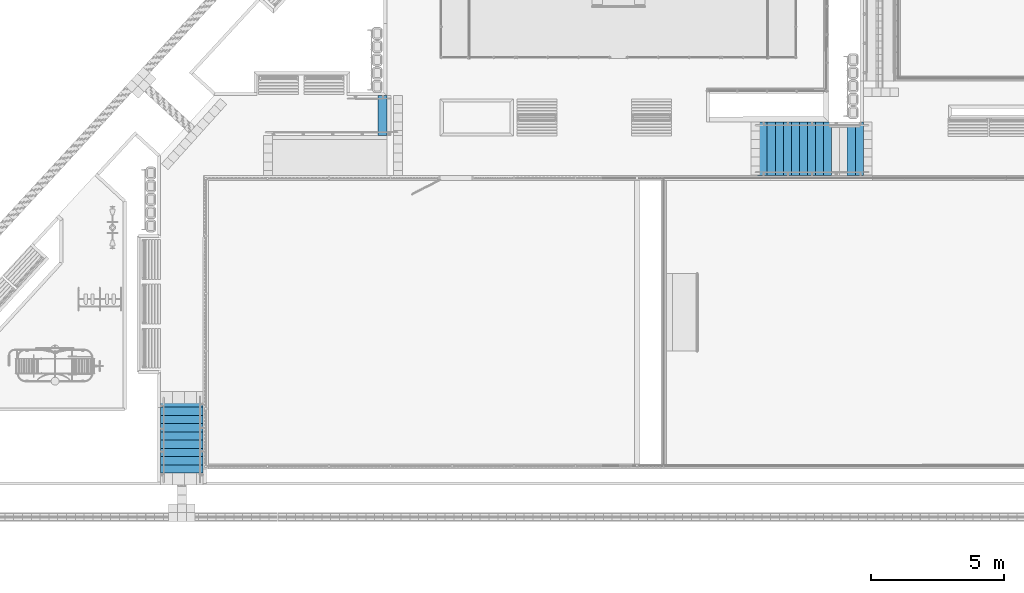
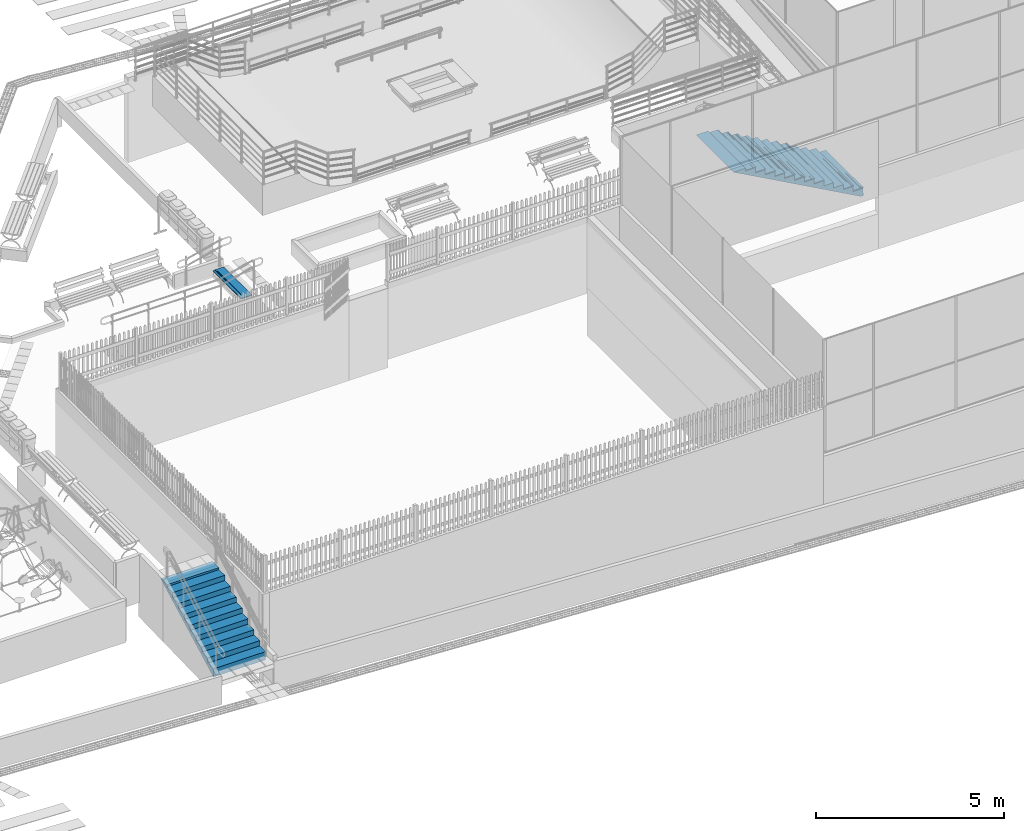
# One storey, part 22 of 237: 13 members, 3 elements without a shape of their own.
"""IFC2X3 building model written with IfcOpenShell, lengths in millimetres."""

from ifc_helpers import new_model, entity, si_unit, converted_unit, derived_unit, money_unit, direction, frame, origin_with_axes, place, context, subcontext, project, spatial, faceted_brep, material, type_object, element, aggregate, save


model = new_model("IFC2X3")

# Units and contexts
model_context = context("Model", 3, precision=0.01, world=origin_with_axes(), true_north=direction((0.0, 1.0)))
body_context = subcontext(model_context, "Body", "Model", "MODEL_VIEW")
ifc_project = project(units=[si_unit("LENGTHUNIT", "METRE", prefix="MILLI"), si_unit("AREAUNIT", "SQUARE_METRE"), si_unit("VOLUMEUNIT", "CUBIC_METRE"), converted_unit("PLANEANGLEUNIT", "DEGREE", entity("IfcPlaneAngleMeasure", 0.0174532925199), si_unit("PLANEANGLEUNIT", "RADIAN"), dimensions=[0, 0, 0, 0, 0, 0, 0]), money_unit("USD"), converted_unit("TIMEUNIT", "Year", entity("IfcTimeMeasure", 31556926.0), si_unit("TIMEUNIT", "SECOND"), dimensions=[0, 0, 1, 0, 0, 0, 0]), si_unit("MASSUNIT", "GRAM", prefix="KILO"), si_unit("THERMODYNAMICTEMPERATUREUNIT", "DEGREE_CELSIUS"), si_unit("LUMINOUSINTENSITYUNIT", "LUMEN"), si_unit("ENERGYUNIT", "JOULE", prefix="MEGA"), derived_unit("THERMALCONDUCTANCEUNIT", [(si_unit("POWERUNIT", "WATT"), 1), (si_unit("LENGTHUNIT", "METRE"), -1), (si_unit("THERMODYNAMICTEMPERATUREUNIT", "KELVIN"), -1)]), derived_unit("SPECIFICHEATCAPACITYUNIT", [(si_unit("ENERGYUNIT", "JOULE"), 1), (si_unit("MASSUNIT", "GRAM", prefix="KILO"), -1), (si_unit("THERMODYNAMICTEMPERATUREUNIT", "KELVIN"), -1)]), derived_unit("MASSDENSITYUNIT", [(si_unit("MASSUNIT", "GRAM", prefix="KILO"), 1), (si_unit("VOLUMEUNIT", "CUBIC_METRE"), -1)])], contexts=[model_context])

# Site, building, storey
site_placement = place(None, origin_with_axes())
site = spatial("IfcSite", under=ifc_project, at=site_placement, Name="Local", CompositionType="ELEMENT")
building_placement = place(site_placement, origin_with_axes())
building = spatial("IfcBuilding", under=site, at=building_placement, Name="Construção", CompositionType="ELEMENT")
storey_placement = place(building_placement, origin_with_axes())
storey = spatial("IfcBuildingStorey", under=building, at=storey_placement, Name="Pavimento Térreo", CompositionType="ELEMENT", Elevation=0.0)

# Stair, member
stair_1_placement = place(storey_placement, frame((48727.4440926, 25154.9440169, -1600.0), z_axis=(0.0, 0.0, 1.0), x_axis=(-1.0, 0.0, 0.0)))
stair_1 = element("IfcStair", 1, at=stair_1_placement, inside=storey, Name="Escada - 004", ShapeType="NOTDEFINED")
ifc_material_1 = material(Name="Concreto Armado - Pré-fabricado")
member_type = type_object("IfcMemberType", Name="IfcMember", PredefinedType="NOTDEFINED")
member_1_placement = place(stair_1_placement, frame((0.0, -750.0, 130.0), z_axis=(0.0, 0.0, 1.0), x_axis=(0.0, 1.0, 0.0)))
member_1 = element("IfcMember", 2, at=member_1_placement, type_object=member_type, material=ifc_material_1, Name="Piso Esc. - 034", context=body_context, shape_type="Brep", body=[
    faceted_brep([(-750.0, 95.0, 0.0), (750.0, 95.0, 0.0), (750.0, 320.0, 0.0), (750.0, 335.0, 0.0), (-750.0, 335.0, 0.0), (-750.0, 320.0, 0.0), (750.0, 95.0, -5.0), (-750.0, 95.0, -5.0), (750.0, 80.0, -5.0), (750.0, 80.0, 0.0), (750.0, 62.5, 0.0), (750.0, 62.5, -5.0), (750.0, 47.5, -5.0), (750.0, 47.5, 0.0), (750.0, 30.0, 0.0), (750.0, 30.0, -5.0), (750.0, 15.0, -5.0), (750.0, 15.0, 0.0), (750.0, 0.0, 0.0), (750.0, 0.0, -25.0), (750.0, 320.0, -25.0), (750.0, 335.0, -25.0), (-750.0, 335.0, -25.0), (-750.0, 320.0, -25.0), (-750.0, 0.0, -25.0), (-750.0, 0.0, 0.0), (-750.0, 15.0, 0.0), (-750.0, 15.0, -5.0), (-750.0, 30.0, -5.0), (-750.0, 30.0, 0.0), (-750.0, 47.5, 0.0), (-750.0, 47.5, -5.0), (-750.0, 62.5, -5.0), (-750.0, 62.5, 0.0), (-750.0, 80.0, 0.0), (-750.0, 80.0, -5.0)], [[[0, 1, 2, 3, 4, 5]], [[6, 1, 0, 7]], [[8, 9, 10, 11, 12, 13, 14, 15, 16, 17, 18, 19, 20, 2, 1, 6]], [[2, 20, 21, 3]], [[3, 21, 22, 4]], [[4, 22, 23, 5]], [[7, 0, 5, 23, 24, 25, 26, 27, 28, 29, 30, 31, 32, 33, 34, 35]], [[8, 6, 7, 35]], [[34, 9, 8, 35]], [[9, 34, 33, 10]], [[10, 33, 32, 11]], [[11, 32, 31, 12]], [[13, 12, 31, 30]], [[30, 29, 14, 13]], [[29, 28, 15, 14]], [[28, 27, 16, 15]], [[16, 27, 26, 17]], [[25, 18, 17, 26]], [[25, 24, 19, 18]], [[21, 20, 19, 24, 23, 22]]]),
])
aggregate(stair_1, [member_1])

# Stair, members
stair_2_placement = place(storey_placement, frame((66962.5028921, 25657.7253191, -3507.10819655), z_axis=(0.0, 0.0, 1.0), x_axis=(1.0, 0.0, 0.0)))
stair_2 = element("IfcStair", 3, at=stair_2_placement, inside=storey, Name="Escada - 009", ShapeType="NOTDEFINED")
ifc_material_2 = material(Name="Concreto - Estrutural")
member_2_placement = place(stair_2_placement, origin_with_axes())
member_2 = element("IfcMember", 4, at=member_2_placement, type_object=member_type, material=ifc_material_2, Name="Lance - 011", context=body_context, shape_type="Brep", body=[
    faceted_brep([(-3525.0, -2000.0, 1795.81103818), (-3525.0, 0.0, 1795.81103818), (-3450.0, 0.0, 1754.46488434), (-3450.0, -2000.0, 1754.46488434), (-3600.0, 0.0, 1837.15719203), (-3600.0, -2000.0, 1837.15719203), (-3986.08695399, -2000.0, 2050.0), (-3986.08695399, 0.0, 2050.0), (-3600.0, 0.0, 1959.61538462), (-3315.0, 0.0, 1959.61538462), (-3315.0, 0.0, 1794.23076923), (-3015.0, 0.0, 1794.23076923), (-3015.0, 0.0, 1628.84615385), (-2715.0, 0.0, 1628.84615385), (-2715.0, 0.0, 1463.46153846), (-2415.0, 0.0, 1463.46153846), (-2415.0, 0.0, 1298.07692308), (-2115.0, 0.0, 1298.07692308), (-2115.0, 0.0, 1132.69230769), (-1815.0, 0.0, 1132.69230769), (-1815.0, 0.0, 967.307692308), (-1515.0, 0.0, 967.307692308), (-1515.0, 0.0, 801.923076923), (-1215.0, 0.0, 801.923076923), (-1215.0, 0.0, 636.538461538), (-915.0, 0.0, 636.538461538), (-915.0, 0.0, 471.153846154), (-615.0, 0.0, 471.153846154), (-615.0, 0.0, 305.769230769), (-315.0, 0.0, 305.769230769), (-315.0, 0.0, 140.384615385), (-15.0, 0.0, 140.384615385), (-15.0, 0.0, -25.0), (0.0, 0.0, -25.0), (0.0, 0.0, -100.0), (-86.0869539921, 0.0, -100.0), (-100.0, 0.0, -92.3299874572), (-200.0, 0.0, -37.201782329), (-300.0, 0.0, 17.9264227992), (-375.0, 0.0, 59.2725766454), (-450.0, 0.0, 100.618730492), (-525.0, 0.0, 141.964884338), (-600.0, 0.0, 183.311038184), (-700.0, 0.0, 238.439243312), (-800.0, 0.0, 293.56744844), (-900.0, 0.0, 348.695653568), (-975.0, 0.0, 390.041807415), (-1050.0, 0.0, 431.387961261), (-1125.0, 0.0, 472.734115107), (-1200.0, 0.0, 514.080268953), (-1300.0, 0.0, 569.208474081), (-1400.0, 0.0, 624.336679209), (-1500.0, 0.0, 679.464884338), (-1600.0, 0.0, 734.593089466), (-1700.0, 0.0, 789.721294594), (-1800.0, 0.0, 844.849499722), (-1875.0, 0.0, 886.195653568), (-1950.0, 0.0, 927.541807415), (-2025.0, 0.0, 968.887961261), (-2100.0, 0.0, 1010.23411511), (-2200.0, 0.0, 1065.36232024), (-2300.0, 0.0, 1120.49052536), (-2400.0, 0.0, 1175.61873049), (-2500.0, 0.0, 1230.74693562), (-2600.0, 0.0, 1285.87514075), (-2700.0, 0.0, 1341.00334588), (-2775.0, 0.0, 1382.34949972), (-2850.0, 0.0, 1423.69565357), (-2925.0, 0.0, 1465.04180741), (-3000.0, 0.0, 1506.38796126), (-3100.0, 0.0, 1561.51616639), (-3200.0, 0.0, 1616.64437152), (-3300.0, 0.0, 1671.77257665), (-3375.0, 0.0, 1713.11873049), (-3615.0, 0.0, 2050.0), (-3615.0, 0.0, 1959.61538462), (-3375.0, -2000.0, 1713.11873049), (-3300.0, -2000.0, 1671.77257665), (-3200.0, -2000.0, 1616.64437152), (-3100.0, -2000.0, 1561.51616639), (-3000.0, -2000.0, 1506.38796126), (-2925.0, -2000.0, 1465.04180741), (-2850.0, -2000.0, 1423.69565357), (-2775.0, -2000.0, 1382.34949972), (-2700.0, -2000.0, 1341.00334588), (-2600.0, -2000.0, 1285.87514075), (-2500.0, -2000.0, 1230.74693562), (-2400.0, -2000.0, 1175.61873049), (-2300.0, -2000.0, 1120.49052536), (-2200.0, -2000.0, 1065.36232024), (-2100.0, -2000.0, 1010.23411511), (-2025.0, -2000.0, 968.887961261), (-1950.0, -2000.0, 927.541807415), (-1875.0, -2000.0, 886.195653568), (-1800.0, -2000.0, 844.849499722), (-1700.0, -2000.0, 789.721294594), (-1600.0, -2000.0, 734.593089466), (-1500.0, -2000.0, 679.464884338), (-1400.0, -2000.0, 624.336679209), (-1300.0, -2000.0, 569.208474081), (-1200.0, -2000.0, 514.080268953), (-1125.0, -2000.0, 472.734115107), (-1050.0, -2000.0, 431.387961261), (-975.0, -2000.0, 390.041807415), (-900.0, -2000.0, 348.695653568), (-800.0, -2000.0, 293.56744844), (-700.0, -2000.0, 238.439243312), (-600.0, -2000.0, 183.311038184), (-525.0, -2000.0, 141.964884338), (-450.0, -2000.0, 100.618730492), (-375.0, -2000.0, 59.2725766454), (-300.0, -2000.0, 17.9264227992), (-200.0, -2000.0, -37.201782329), (-100.0, -2000.0, -92.3299874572), (-86.0869539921, -2000.0, -100.0), (0.0, -2000.0, -100.0), (0.0, -2000.0, -25.0), (-15.0, -2000.0, -25.0), (-15.0, -2000.0, 140.384615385), (-315.0, -2000.0, 140.384615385), (-315.0, -2000.0, 305.769230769), (-615.0, -2000.0, 305.769230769), (-615.0, -2000.0, 471.153846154), (-915.0, -2000.0, 471.153846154), (-915.0, -2000.0, 636.538461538), (-1215.0, -2000.0, 636.538461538), (-1215.0, -2000.0, 801.923076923), (-1515.0, -2000.0, 801.923076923), (-1515.0, -2000.0, 967.307692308), (-1815.0, -2000.0, 967.307692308), (-1815.0, -2000.0, 1132.69230769), (-2115.0, -2000.0, 1132.69230769), (-2115.0, -2000.0, 1298.07692308), (-2415.0, -2000.0, 1298.07692308), (-2415.0, -2000.0, 1463.46153846), (-2715.0, -2000.0, 1463.46153846), (-2715.0, -2000.0, 1628.84615385), (-3015.0, -2000.0, 1628.84615385), (-3015.0, -2000.0, 1794.23076923), (-3315.0, -2000.0, 1794.23076923), (-3315.0, -2000.0, 1959.61538462), (-3600.0, -2000.0, 1959.61538462), (-3615.0, -2000.0, 1959.61538462), (-3615.0, -2000.0, 2050.0)], [[[0, 1, 2, 3]], [[4, 1, 0, 5, 6, 7]], [[8, 9, 10, 11, 12, 13, 14, 15, 16, 17, 18, 19, 20, 21, 22, 23, 24, 25, 26, 27, 28, 29, 30, 31, 32, 33, 34, 35, 36, 37, 38, 39, 40, 41, 42, 43, 44, 45, 46, 47, 48, 49, 50, 51, 52, 53, 54, 55, 56, 57, 58, 59, 60, 61, 62, 63, 64, 65, 66, 67, 68, 69, 70, 71, 72, 73, 2, 1, 4, 7, 74, 75]], [[3, 2, 73, 76]], [[5, 0, 3, 76, 77, 78, 79, 80, 81, 82, 83, 84, 85, 86, 87, 88, 89, 90, 91, 92, 93, 94, 95, 96, 97, 98, 99, 100, 101, 102, 103, 104, 105, 106, 107, 108, 109, 110, 111, 112, 113, 114, 115, 116, 117, 118, 119, 120, 121, 122, 123, 124, 125, 126, 127, 128, 129, 130, 131, 132, 133, 134, 135, 136, 137, 138, 139, 140, 141, 142, 143, 6]], [[6, 143, 74, 7]], [[141, 140, 9, 8, 75, 142]], [[140, 139, 10, 9]], [[139, 138, 11, 10]], [[138, 137, 12, 11]], [[137, 136, 13, 12]], [[136, 135, 14, 13]], [[135, 134, 15, 14]], [[134, 133, 16, 15]], [[133, 132, 17, 16]], [[132, 131, 18, 17]], [[131, 130, 19, 18]], [[130, 129, 20, 19]], [[129, 128, 21, 20]], [[128, 127, 22, 21]], [[127, 126, 23, 22]], [[126, 125, 24, 23]], [[125, 124, 25, 24]], [[124, 123, 26, 25]], [[123, 122, 27, 26]], [[122, 121, 28, 27]], [[121, 120, 29, 28]], [[120, 119, 30, 29]], [[119, 118, 31, 30]], [[118, 117, 32, 31]], [[32, 117, 116, 33]], [[115, 34, 33, 116]], [[35, 34, 115, 114]], [[35, 114, 113, 36]], [[112, 37, 36, 113]], [[111, 38, 37, 112]], [[110, 39, 38, 111]], [[109, 40, 39, 110]], [[108, 41, 40, 109]], [[107, 42, 41, 108]], [[106, 43, 42, 107]], [[105, 44, 43, 106]], [[104, 45, 44, 105]], [[103, 46, 45, 104]], [[102, 47, 46, 103]], [[101, 48, 47, 102]], [[100, 49, 48, 101]], [[99, 50, 49, 100]], [[98, 51, 50, 99]], [[97, 52, 51, 98]], [[96, 53, 52, 97]], [[95, 54, 53, 96]], [[94, 55, 54, 95]], [[93, 56, 55, 94]], [[92, 57, 56, 93]], [[91, 58, 57, 92]], [[90, 59, 58, 91]], [[89, 60, 59, 90]], [[88, 61, 60, 89]], [[87, 62, 61, 88]], [[86, 63, 62, 87]], [[85, 64, 63, 86]], [[84, 65, 64, 85]], [[83, 66, 65, 84]], [[82, 67, 66, 83]], [[81, 68, 67, 82]], [[80, 69, 68, 81]], [[79, 70, 69, 80]], [[78, 71, 70, 79]], [[77, 72, 71, 78]], [[76, 73, 72, 77]], [[142, 75, 74, 143]]]),
])
member_3_placement = place(stair_2_placement, frame((0.0, -1000.0, 165.384615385), z_axis=(0.0, 0.0, 1.0), x_axis=(0.0, 1.0, 0.0)))
member_3 = element("IfcMember", 5, at=member_3_placement, type_object=member_type, material=ifc_material_1, Name="Piso Esc. - 066", context=body_context, shape_type="Brep", body=[
    faceted_brep([(-1000.0, 95.0, 0.0), (1000.0, 95.0, 0.0), (1000.0, 315.0, 0.0), (-1000.0, 315.0, 0.0), (1000.0, 95.0, -5.0), (-1000.0, 95.0, -5.0), (1000.0, 80.0, -5.0), (1000.0, 80.0, 0.0), (1000.0, 62.5, 0.0), (1000.0, 62.5, -5.0), (1000.0, 47.5, -5.0), (1000.0, 47.5, 0.0), (1000.0, 30.0, 0.0), (1000.0, 30.0, -5.0), (1000.0, 15.0, -5.0), (1000.0, 15.0, 0.0), (1000.0, 0.0, 0.0), (1000.0, 0.0, -25.0), (1000.0, 315.0, -25.0), (-1000.0, 315.0, -25.0), (-1000.0, 0.0, -25.0), (-1000.0, 0.0, 0.0), (-1000.0, 15.0, 0.0), (-1000.0, 15.0, -5.0), (-1000.0, 30.0, -5.0), (-1000.0, 30.0, 0.0), (-1000.0, 47.5, 0.0), (-1000.0, 47.5, -5.0), (-1000.0, 62.5, -5.0), (-1000.0, 62.5, 0.0), (-1000.0, 80.0, 0.0), (-1000.0, 80.0, -5.0)], [[[0, 1, 2, 3]], [[4, 1, 0, 5]], [[6, 7, 8, 9, 10, 11, 12, 13, 14, 15, 16, 17, 18, 2, 1, 4]], [[2, 18, 19, 3]], [[5, 0, 3, 19, 20, 21, 22, 23, 24, 25, 26, 27, 28, 29, 30, 31]], [[6, 4, 5, 31]], [[30, 7, 6, 31]], [[7, 30, 29, 8]], [[8, 29, 28, 9]], [[9, 28, 27, 10]], [[11, 10, 27, 26]], [[26, 25, 12, 11]], [[25, 24, 13, 12]], [[24, 23, 14, 13]], [[14, 23, 22, 15]], [[21, 16, 15, 22]], [[21, 20, 17, 16]], [[17, 20, 19, 18]]]),
])
member_4_placement = place(stair_2_placement, frame((-300.0, -1000.0, 330.769230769), z_axis=(0.0, 0.0, 1.0), x_axis=(0.0, 1.0, 0.0)))
member_4 = element("IfcMember", 6, at=member_4_placement, type_object=member_type, material=ifc_material_1, Name="Piso Esc. - 067", context=body_context, shape_type="Brep", body=[
    faceted_brep([(-1000.0, 95.0, 0.0), (1000.0, 95.0, 0.0), (1000.0, 315.0, 0.0), (-1000.0, 315.0, 0.0), (1000.0, 95.0, -5.0), (-1000.0, 95.0, -5.0), (1000.0, 80.0, -5.0), (1000.0, 80.0, 0.0), (1000.0, 62.5, 0.0), (1000.0, 62.5, -5.0), (1000.0, 47.5, -5.0), (1000.0, 47.5, 0.0), (1000.0, 30.0, 0.0), (1000.0, 30.0, -5.0), (1000.0, 15.0, -5.0), (1000.0, 15.0, 0.0), (1000.0, 0.0, 0.0), (1000.0, 0.0, -25.0), (1000.0, 315.0, -25.0), (-1000.0, 315.0, -25.0), (-1000.0, 0.0, -25.0), (-1000.0, 0.0, 0.0), (-1000.0, 15.0, 0.0), (-1000.0, 15.0, -5.0), (-1000.0, 30.0, -5.0), (-1000.0, 30.0, 0.0), (-1000.0, 47.5, 0.0), (-1000.0, 47.5, -5.0), (-1000.0, 62.5, -5.0), (-1000.0, 62.5, 0.0), (-1000.0, 80.0, 0.0), (-1000.0, 80.0, -5.0)], [[[0, 1, 2, 3]], [[4, 1, 0, 5]], [[6, 7, 8, 9, 10, 11, 12, 13, 14, 15, 16, 17, 18, 2, 1, 4]], [[2, 18, 19, 3]], [[5, 0, 3, 19, 20, 21, 22, 23, 24, 25, 26, 27, 28, 29, 30, 31]], [[6, 4, 5, 31]], [[30, 7, 6, 31]], [[7, 30, 29, 8]], [[8, 29, 28, 9]], [[9, 28, 27, 10]], [[11, 10, 27, 26]], [[26, 25, 12, 11]], [[25, 24, 13, 12]], [[24, 23, 14, 13]], [[14, 23, 22, 15]], [[21, 16, 15, 22]], [[21, 20, 17, 16]], [[17, 20, 19, 18]]]),
])
member_5_placement = place(stair_2_placement, frame((-1200.0, -1000.0, 826.923076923), z_axis=(0.0, 0.0, 1.0), x_axis=(0.0, 1.0, 0.0)))
member_5 = element("IfcMember", 7, at=member_5_placement, type_object=member_type, material=ifc_material_1, Name="Piso Esc. - 070", context=body_context, shape_type="Brep", body=[
    faceted_brep([(-1000.0, 95.0, 0.0), (1000.0, 95.0, 0.0), (1000.0, 315.0, 0.0), (-1000.0, 315.0, 0.0), (1000.0, 95.0, -5.0), (-1000.0, 95.0, -5.0), (1000.0, 80.0, -5.0), (1000.0, 80.0, 0.0), (1000.0, 62.5, 0.0), (1000.0, 62.5, -5.0), (1000.0, 47.5, -5.0), (1000.0, 47.5, 0.0), (1000.0, 30.0, 0.0), (1000.0, 30.0, -5.0), (1000.0, 15.0, -5.0), (1000.0, 15.0, 0.0), (1000.0, 0.0, 0.0), (1000.0, 0.0, -25.0), (1000.0, 315.0, -25.0), (-1000.0, 315.0, -25.0), (-1000.0, 0.0, -25.0), (-1000.0, 0.0, 0.0), (-1000.0, 15.0, 0.0), (-1000.0, 15.0, -5.0), (-1000.0, 30.0, -5.0), (-1000.0, 30.0, 0.0), (-1000.0, 47.5, 0.0), (-1000.0, 47.5, -5.0), (-1000.0, 62.5, -5.0), (-1000.0, 62.5, 0.0), (-1000.0, 80.0, 0.0), (-1000.0, 80.0, -5.0)], [[[0, 1, 2, 3]], [[4, 1, 0, 5]], [[6, 7, 8, 9, 10, 11, 12, 13, 14, 15, 16, 17, 18, 2, 1, 4]], [[2, 18, 19, 3]], [[5, 0, 3, 19, 20, 21, 22, 23, 24, 25, 26, 27, 28, 29, 30, 31]], [[6, 4, 5, 31]], [[30, 7, 6, 31]], [[7, 30, 29, 8]], [[8, 29, 28, 9]], [[9, 28, 27, 10]], [[11, 10, 27, 26]], [[26, 25, 12, 11]], [[25, 24, 13, 12]], [[24, 23, 14, 13]], [[14, 23, 22, 15]], [[21, 16, 15, 22]], [[21, 20, 17, 16]], [[17, 20, 19, 18]]]),
])
member_6_placement = place(stair_2_placement, frame((-1500.0, -1000.0, 992.307692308), z_axis=(0.0, 0.0, 1.0), x_axis=(0.0, 1.0, 0.0)))
member_6 = element("IfcMember", 8, at=member_6_placement, type_object=member_type, material=ifc_material_1, Name="Piso Esc. - 071", context=body_context, shape_type="Brep", body=[
    faceted_brep([(-1000.0, 95.0, 0.0), (1000.0, 95.0, 0.0), (1000.0, 315.0, 0.0), (-1000.0, 315.0, 0.0), (1000.0, 95.0, -5.0), (-1000.0, 95.0, -5.0), (1000.0, 80.0, -5.0), (1000.0, 80.0, 0.0), (1000.0, 62.5, 0.0), (1000.0, 62.5, -5.0), (1000.0, 47.5, -5.0), (1000.0, 47.5, 0.0), (1000.0, 30.0, 0.0), (1000.0, 30.0, -5.0), (1000.0, 15.0, -5.0), (1000.0, 15.0, 0.0), (1000.0, 0.0, 0.0), (1000.0, 0.0, -25.0), (1000.0, 315.0, -25.0), (-1000.0, 315.0, -25.0), (-1000.0, 0.0, -25.0), (-1000.0, 0.0, 0.0), (-1000.0, 15.0, 0.0), (-1000.0, 15.0, -5.0), (-1000.0, 30.0, -5.0), (-1000.0, 30.0, 0.0), (-1000.0, 47.5, 0.0), (-1000.0, 47.5, -5.0), (-1000.0, 62.5, -5.0), (-1000.0, 62.5, 0.0), (-1000.0, 80.0, 0.0), (-1000.0, 80.0, -5.0)], [[[0, 1, 2, 3]], [[4, 1, 0, 5]], [[6, 7, 8, 9, 10, 11, 12, 13, 14, 15, 16, 17, 18, 2, 1, 4]], [[2, 18, 19, 3]], [[5, 0, 3, 19, 20, 21, 22, 23, 24, 25, 26, 27, 28, 29, 30, 31]], [[6, 4, 5, 31]], [[30, 7, 6, 31]], [[7, 30, 29, 8]], [[8, 29, 28, 9]], [[9, 28, 27, 10]], [[11, 10, 27, 26]], [[26, 25, 12, 11]], [[25, 24, 13, 12]], [[24, 23, 14, 13]], [[14, 23, 22, 15]], [[21, 16, 15, 22]], [[21, 20, 17, 16]], [[17, 20, 19, 18]]]),
])
member_7_placement = place(stair_2_placement, frame((-1800.0, -1000.0, 1157.69230769), z_axis=(0.0, 0.0, 1.0), x_axis=(0.0, 1.0, 0.0)))
member_7 = element("IfcMember", 9, at=member_7_placement, type_object=member_type, material=ifc_material_1, Name="Piso Esc. - 072", context=body_context, shape_type="Brep", body=[
    faceted_brep([(-1000.0, 95.0, 0.0), (1000.0, 95.0, 0.0), (1000.0, 315.0, 0.0), (-1000.0, 315.0, 0.0), (1000.0, 95.0, -5.0), (-1000.0, 95.0, -5.0), (1000.0, 80.0, -5.0), (1000.0, 80.0, 0.0), (1000.0, 62.5, 0.0), (1000.0, 62.5, -5.0), (1000.0, 47.5, -5.0), (1000.0, 47.5, 0.0), (1000.0, 30.0, 0.0), (1000.0, 30.0, -5.0), (1000.0, 15.0, -5.0), (1000.0, 15.0, 0.0), (1000.0, 0.0, 0.0), (1000.0, 0.0, -25.0), (1000.0, 315.0, -25.0), (-1000.0, 315.0, -25.0), (-1000.0, 0.0, -25.0), (-1000.0, 0.0, 0.0), (-1000.0, 15.0, 0.0), (-1000.0, 15.0, -5.0), (-1000.0, 30.0, -5.0), (-1000.0, 30.0, 0.0), (-1000.0, 47.5, 0.0), (-1000.0, 47.5, -5.0), (-1000.0, 62.5, -5.0), (-1000.0, 62.5, 0.0), (-1000.0, 80.0, 0.0), (-1000.0, 80.0, -5.0)], [[[0, 1, 2, 3]], [[4, 1, 0, 5]], [[6, 7, 8, 9, 10, 11, 12, 13, 14, 15, 16, 17, 18, 2, 1, 4]], [[2, 18, 19, 3]], [[5, 0, 3, 19, 20, 21, 22, 23, 24, 25, 26, 27, 28, 29, 30, 31]], [[6, 4, 5, 31]], [[30, 7, 6, 31]], [[7, 30, 29, 8]], [[8, 29, 28, 9]], [[9, 28, 27, 10]], [[11, 10, 27, 26]], [[26, 25, 12, 11]], [[25, 24, 13, 12]], [[24, 23, 14, 13]], [[14, 23, 22, 15]], [[21, 16, 15, 22]], [[21, 20, 17, 16]], [[17, 20, 19, 18]]]),
])
member_8_placement = place(stair_2_placement, frame((-2100.0, -1000.0, 1323.07692308), z_axis=(0.0, 0.0, 1.0), x_axis=(0.0, 1.0, 0.0)))
member_8 = element("IfcMember", 10, at=member_8_placement, type_object=member_type, material=ifc_material_1, Name="Piso Esc. - 073", context=body_context, shape_type="Brep", body=[
    faceted_brep([(-1000.0, 95.0, 0.0), (1000.0, 95.0, 0.0), (1000.0, 315.0, 0.0), (-1000.0, 315.0, 0.0), (1000.0, 95.0, -5.0), (-1000.0, 95.0, -5.0), (1000.0, 80.0, -5.0), (1000.0, 80.0, 0.0), (1000.0, 62.5, 0.0), (1000.0, 62.5, -5.0), (1000.0, 47.5, -5.0), (1000.0, 47.5, 0.0), (1000.0, 30.0, 0.0), (1000.0, 30.0, -5.0), (1000.0, 15.0, -5.0), (1000.0, 15.0, 0.0), (1000.0, 0.0, 0.0), (1000.0, 0.0, -25.0), (1000.0, 315.0, -25.0), (-1000.0, 315.0, -25.0), (-1000.0, 0.0, -25.0), (-1000.0, 0.0, 0.0), (-1000.0, 15.0, 0.0), (-1000.0, 15.0, -5.0), (-1000.0, 30.0, -5.0), (-1000.0, 30.0, 0.0), (-1000.0, 47.5, 0.0), (-1000.0, 47.5, -5.0), (-1000.0, 62.5, -5.0), (-1000.0, 62.5, 0.0), (-1000.0, 80.0, 0.0), (-1000.0, 80.0, -5.0)], [[[0, 1, 2, 3]], [[4, 1, 0, 5]], [[6, 7, 8, 9, 10, 11, 12, 13, 14, 15, 16, 17, 18, 2, 1, 4]], [[2, 18, 19, 3]], [[5, 0, 3, 19, 20, 21, 22, 23, 24, 25, 26, 27, 28, 29, 30, 31]], [[6, 4, 5, 31]], [[30, 7, 6, 31]], [[7, 30, 29, 8]], [[8, 29, 28, 9]], [[9, 28, 27, 10]], [[11, 10, 27, 26]], [[26, 25, 12, 11]], [[25, 24, 13, 12]], [[24, 23, 14, 13]], [[14, 23, 22, 15]], [[21, 16, 15, 22]], [[21, 20, 17, 16]], [[17, 20, 19, 18]]]),
])
member_9_placement = place(stair_2_placement, frame((-2400.0, -1000.0, 1488.46153846), z_axis=(0.0, 0.0, 1.0), x_axis=(0.0, 1.0, 0.0)))
member_9 = element("IfcMember", 11, at=member_9_placement, type_object=member_type, material=ifc_material_1, Name="Piso Esc. - 074", context=body_context, shape_type="Brep", body=[
    faceted_brep([(-1000.0, 95.0, 0.0), (1000.0, 95.0, 0.0), (1000.0, 315.0, 0.0), (-1000.0, 315.0, 0.0), (1000.0, 95.0, -5.0), (-1000.0, 95.0, -5.0), (1000.0, 80.0, -5.0), (1000.0, 80.0, 0.0), (1000.0, 62.5, 0.0), (1000.0, 62.5, -5.0), (1000.0, 47.5, -5.0), (1000.0, 47.5, 0.0), (1000.0, 30.0, 0.0), (1000.0, 30.0, -5.0), (1000.0, 15.0, -5.0), (1000.0, 15.0, 0.0), (1000.0, 0.0, 0.0), (1000.0, 0.0, -25.0), (1000.0, 315.0, -25.0), (-1000.0, 315.0, -25.0), (-1000.0, 0.0, -25.0), (-1000.0, 0.0, 0.0), (-1000.0, 15.0, 0.0), (-1000.0, 15.0, -5.0), (-1000.0, 30.0, -5.0), (-1000.0, 30.0, 0.0), (-1000.0, 47.5, 0.0), (-1000.0, 47.5, -5.0), (-1000.0, 62.5, -5.0), (-1000.0, 62.5, 0.0), (-1000.0, 80.0, 0.0), (-1000.0, 80.0, -5.0)], [[[0, 1, 2, 3]], [[4, 1, 0, 5]], [[6, 7, 8, 9, 10, 11, 12, 13, 14, 15, 16, 17, 18, 2, 1, 4]], [[2, 18, 19, 3]], [[5, 0, 3, 19, 20, 21, 22, 23, 24, 25, 26, 27, 28, 29, 30, 31]], [[6, 4, 5, 31]], [[30, 7, 6, 31]], [[7, 30, 29, 8]], [[8, 29, 28, 9]], [[9, 28, 27, 10]], [[11, 10, 27, 26]], [[26, 25, 12, 11]], [[25, 24, 13, 12]], [[24, 23, 14, 13]], [[14, 23, 22, 15]], [[21, 16, 15, 22]], [[21, 20, 17, 16]], [[17, 20, 19, 18]]]),
])
member_10_placement = place(stair_2_placement, frame((-2700.0, -1000.0, 1653.84615385), z_axis=(0.0, 0.0, 1.0), x_axis=(0.0, 1.0, 0.0)))
member_10 = element("IfcMember", 12, at=member_10_placement, type_object=member_type, material=ifc_material_1, Name="Piso Esc. - 075", context=body_context, shape_type="Brep", body=[
    faceted_brep([(-1000.0, 95.0, 0.0), (1000.0, 95.0, 0.0), (1000.0, 315.0, 0.0), (-1000.0, 315.0, 0.0), (1000.0, 95.0, -5.0), (-1000.0, 95.0, -5.0), (1000.0, 80.0, -5.0), (1000.0, 80.0, 0.0), (1000.0, 62.5, 0.0), (1000.0, 62.5, -5.0), (1000.0, 47.5, -5.0), (1000.0, 47.5, 0.0), (1000.0, 30.0, 0.0), (1000.0, 30.0, -5.0), (1000.0, 15.0, -5.0), (1000.0, 15.0, 0.0), (1000.0, 0.0, 0.0), (1000.0, 0.0, -25.0), (1000.0, 315.0, -25.0), (-1000.0, 315.0, -25.0), (-1000.0, 0.0, -25.0), (-1000.0, 0.0, 0.0), (-1000.0, 15.0, 0.0), (-1000.0, 15.0, -5.0), (-1000.0, 30.0, -5.0), (-1000.0, 30.0, 0.0), (-1000.0, 47.5, 0.0), (-1000.0, 47.5, -5.0), (-1000.0, 62.5, -5.0), (-1000.0, 62.5, 0.0), (-1000.0, 80.0, 0.0), (-1000.0, 80.0, -5.0)], [[[0, 1, 2, 3]], [[4, 1, 0, 5]], [[6, 7, 8, 9, 10, 11, 12, 13, 14, 15, 16, 17, 18, 2, 1, 4]], [[2, 18, 19, 3]], [[5, 0, 3, 19, 20, 21, 22, 23, 24, 25, 26, 27, 28, 29, 30, 31]], [[6, 4, 5, 31]], [[30, 7, 6, 31]], [[7, 30, 29, 8]], [[8, 29, 28, 9]], [[9, 28, 27, 10]], [[11, 10, 27, 26]], [[26, 25, 12, 11]], [[25, 24, 13, 12]], [[24, 23, 14, 13]], [[14, 23, 22, 15]], [[21, 16, 15, 22]], [[21, 20, 17, 16]], [[17, 20, 19, 18]]]),
])
member_11_placement = place(stair_2_placement, frame((-3000.0, -1000.0, 1819.23076923), z_axis=(0.0, 0.0, 1.0), x_axis=(0.0, 1.0, 0.0)))
member_11 = element("IfcMember", 13, at=member_11_placement, type_object=member_type, material=ifc_material_1, Name="Piso Esc. - 076", context=body_context, shape_type="Brep", body=[
    faceted_brep([(-1000.0, 95.0, 0.0), (1000.0, 95.0, 0.0), (1000.0, 315.0, 0.0), (-1000.0, 315.0, 0.0), (1000.0, 95.0, -5.0), (-1000.0, 95.0, -5.0), (1000.0, 80.0, -5.0), (1000.0, 80.0, 0.0), (1000.0, 62.5, 0.0), (1000.0, 62.5, -5.0), (1000.0, 47.5, -5.0), (1000.0, 47.5, 0.0), (1000.0, 30.0, 0.0), (1000.0, 30.0, -5.0), (1000.0, 15.0, -5.0), (1000.0, 15.0, 0.0), (1000.0, 0.0, 0.0), (1000.0, 0.0, -25.0), (1000.0, 315.0, -25.0), (-1000.0, 315.0, -25.0), (-1000.0, 0.0, -25.0), (-1000.0, 0.0, 0.0), (-1000.0, 15.0, 0.0), (-1000.0, 15.0, -5.0), (-1000.0, 30.0, -5.0), (-1000.0, 30.0, 0.0), (-1000.0, 47.5, 0.0), (-1000.0, 47.5, -5.0), (-1000.0, 62.5, -5.0), (-1000.0, 62.5, 0.0), (-1000.0, 80.0, 0.0), (-1000.0, 80.0, -5.0)], [[[0, 1, 2, 3]], [[4, 1, 0, 5]], [[6, 7, 8, 9, 10, 11, 12, 13, 14, 15, 16, 17, 18, 2, 1, 4]], [[2, 18, 19, 3]], [[5, 0, 3, 19, 20, 21, 22, 23, 24, 25, 26, 27, 28, 29, 30, 31]], [[6, 4, 5, 31]], [[30, 7, 6, 31]], [[7, 30, 29, 8]], [[8, 29, 28, 9]], [[9, 28, 27, 10]], [[11, 10, 27, 26]], [[26, 25, 12, 11]], [[25, 24, 13, 12]], [[24, 23, 14, 13]], [[14, 23, 22, 15]], [[21, 16, 15, 22]], [[21, 20, 17, 16]], [[17, 20, 19, 18]]]),
])
member_12_placement = place(stair_2_placement, frame((-3300.0, -1000.0, 1984.61538462), z_axis=(0.0, 0.0, 1.0), x_axis=(0.0, 1.0, 0.0)))
member_12 = element("IfcMember", 14, at=member_12_placement, type_object=member_type, material=ifc_material_1, Name="Piso Esc. - 077", context=body_context, shape_type="Brep", body=[
    faceted_brep([(-1000.0, 95.0, 0.0), (1000.0, 95.0, 0.0), (1000.0, 300.0, 0.0), (1000.0, 315.0, 0.0), (-1000.0, 315.0, 0.0), (-1000.0, 300.0, 0.0), (1000.0, 95.0, -5.0), (-1000.0, 95.0, -5.0), (1000.0, 80.0, -5.0), (1000.0, 80.0, 0.0), (1000.0, 62.5, 0.0), (1000.0, 62.5, -5.0), (1000.0, 47.5, -5.0), (1000.0, 47.5, 0.0), (1000.0, 30.0, 0.0), (1000.0, 30.0, -5.0), (1000.0, 15.0, -5.0), (1000.0, 15.0, 0.0), (1000.0, 0.0, 0.0), (1000.0, 0.0, -25.0), (1000.0, 300.0, -25.0), (1000.0, 315.0, -25.0), (-1000.0, 315.0, -25.0), (-1000.0, 300.0, -25.0), (-1000.0, 0.0, -25.0), (-1000.0, 0.0, 0.0), (-1000.0, 15.0, 0.0), (-1000.0, 15.0, -5.0), (-1000.0, 30.0, -5.0), (-1000.0, 30.0, 0.0), (-1000.0, 47.5, 0.0), (-1000.0, 47.5, -5.0), (-1000.0, 62.5, -5.0), (-1000.0, 62.5, 0.0), (-1000.0, 80.0, 0.0), (-1000.0, 80.0, -5.0)], [[[0, 1, 2, 3, 4, 5]], [[6, 1, 0, 7]], [[8, 9, 10, 11, 12, 13, 14, 15, 16, 17, 18, 19, 20, 2, 1, 6]], [[2, 20, 21, 3]], [[3, 21, 22, 4]], [[4, 22, 23, 5]], [[7, 0, 5, 23, 24, 25, 26, 27, 28, 29, 30, 31, 32, 33, 34, 35]], [[8, 6, 7, 35]], [[34, 9, 8, 35]], [[9, 34, 33, 10]], [[10, 33, 32, 11]], [[11, 32, 31, 12]], [[13, 12, 31, 30]], [[30, 29, 14, 13]], [[29, 28, 15, 14]], [[28, 27, 16, 15]], [[16, 27, 26, 17]], [[25, 18, 17, 26]], [[25, 24, 19, 18]], [[21, 20, 19, 24, 23, 22]]]),
])
aggregate(stair_2, [member_2, member_3, member_4, member_5, member_6, member_7, member_8, member_9, member_10, member_11, member_12])

# Stair, member
stair_3_placement = place(storey_placement, frame((42162.4440926, 12473.4136183, -3104.15280207), z_axis=(0.0, 0.0, 1.0), x_axis=(0.0, -1.0, 0.0)))
stair_3 = element("IfcStair", 15, at=stair_3_placement, inside=storey, Name="Escada - 001", ShapeType="NOTDEFINED")
member_13_placement = place(stair_3_placement, origin_with_axes())
member_13 = element("IfcMember", 16, at=member_13_placement, type_object=member_type, material=ifc_material_2, Name="Lance - 001", context=body_context, shape_type="Brep", body=[
    faceted_brep([(-2480.0, 0.0, 1324.44444444), (-2480.0, -1600.0, 1324.44444444), (-2170.0, -1600.0, 1324.44444444), (-2170.0, 0.0, 1324.44444444), (-2480.0, 0.0, 1390.0), (-2480.0, -1600.0, 1390.0), (-2480.0, -1600.0, 1211.07735954), (-2402.5, -1600.0, 1169.68847065), (-2325.0, -1600.0, 1128.29958176), (-2247.5, -1600.0, 1086.91069288), (-2170.0, -1600.0, 1045.52180399), (-2092.5, -1600.0, 1004.1329151), (-2015.0, -1600.0, 962.744026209), (-1937.5, -1600.0, 921.35513732), (-1860.0, -1600.0, 879.966248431), (-1782.5, -1600.0, 838.577359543), (-1705.0, -1600.0, 797.188470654), (-1627.5, -1600.0, 755.799581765), (-1550.0, -1600.0, 714.410692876), (-1472.5, -1600.0, 673.021803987), (-1395.0, -1600.0, 631.632915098), (-1317.5, -1600.0, 590.244026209), (-1240.0, -1600.0, 548.85513732), (-1162.5, -1600.0, 507.466248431), (-1085.0, -1600.0, 466.077359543), (-1007.5, -1600.0, 424.688470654), (-930.0, -1600.0, 383.299581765), (-852.5, -1600.0, 341.910692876), (-775.0, -1600.0, 300.521803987), (-697.5, -1600.0, 259.132915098), (-620.0, -1600.0, 217.744026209), (-542.5, -1600.0, 176.35513732), (-465.0, -1600.0, 134.966248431), (-387.5, -1600.0, 93.5773595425), (-310.0, -1600.0, 52.1884706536), (-232.5, -1600.0, 10.7995817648), (-155.0, -1600.0, -30.5893071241), (-77.5, -1600.0, -71.978196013), (-25.0296421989, -1600.0, -100.0), (0.0, -1600.0, -100.0), (0.0, -1600.0, 165.555555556), (-310.0, -1600.0, 165.555555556), (-310.0, -1600.0, 331.111111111), (-620.0, -1600.0, 331.111111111), (-620.0, -1600.0, 496.666666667), (-930.0, -1600.0, 496.666666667), (-930.0, -1600.0, 662.222222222), (-1240.0, -1600.0, 662.222222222), (-1240.0, -1600.0, 827.777777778), (-1550.0, -1600.0, 827.777777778), (-1550.0, -1600.0, 993.333333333), (-1860.0, -1600.0, 993.333333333), (-1860.0, -1600.0, 1158.88888889), (-2170.0, -1600.0, 1158.88888889), (-2815.0296422, -1600.0, 1390.0), (-2170.0, 0.0, 1158.88888889), (-1860.0, 0.0, 1158.88888889), (-1860.0, 0.0, 993.333333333), (-1550.0, 0.0, 993.333333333), (-1550.0, 0.0, 827.777777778), (-1240.0, 0.0, 827.777777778), (-1240.0, 0.0, 662.222222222), (-930.0, 0.0, 662.222222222), (-930.0, 0.0, 496.666666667), (-620.0, 0.0, 496.666666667), (-620.0, 0.0, 331.111111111), (-310.0, 0.0, 331.111111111), (-310.0, 0.0, 165.555555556), (0.0, 0.0, 165.555555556), (0.0, 0.0, -100.0), (-25.0296421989, 0.0, -100.0), (-77.5, 0.0, -71.978196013), (-155.0, 0.0, -30.5893071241), (-232.5, 0.0, 10.7995817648), (-310.0, 0.0, 52.1884706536), (-387.5, 0.0, 93.5773595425), (-465.0, 0.0, 134.966248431), (-542.5, 0.0, 176.35513732), (-620.0, 0.0, 217.744026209), (-697.5, 0.0, 259.132915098), (-775.0, 0.0, 300.521803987), (-852.5, 0.0, 341.910692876), (-930.0, 0.0, 383.299581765), (-1007.5, 0.0, 424.688470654), (-1085.0, 0.0, 466.077359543), (-1162.5, 0.0, 507.466248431), (-1240.0, 0.0, 548.85513732), (-1317.5, 0.0, 590.244026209), (-1395.0, 0.0, 631.632915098), (-1472.5, 0.0, 673.021803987), (-1550.0, 0.0, 714.410692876), (-1627.5, 0.0, 755.799581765), (-1705.0, 0.0, 797.188470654), (-1782.5, 0.0, 838.577359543), (-1860.0, 0.0, 879.966248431), (-1937.5, 0.0, 921.35513732), (-2015.0, 0.0, 962.744026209), (-2092.5, 0.0, 1004.1329151), (-2170.0, 0.0, 1045.52180399), (-2247.5, 0.0, 1086.91069288), (-2325.0, 0.0, 1128.29958176), (-2402.5, 0.0, 1169.68847065), (-2480.0, 0.0, 1211.07735954), (-2815.0296422, 0.0, 1390.0)], [[[0, 1, 2, 3]], [[1, 0, 4, 5]], [[6, 7, 8, 9, 10, 11, 12, 13, 14, 15, 16, 17, 18, 19, 20, 21, 22, 23, 24, 25, 26, 27, 28, 29, 30, 31, 32, 33, 34, 35, 36, 37, 38, 39, 40, 41, 42, 43, 44, 45, 46, 47, 48, 49, 50, 51, 52, 53, 2, 1, 5, 54]], [[3, 2, 53, 55]], [[0, 3, 55, 56, 57, 58, 59, 60, 61, 62, 63, 64, 65, 66, 67, 68, 69, 70, 71, 72, 73, 74, 75, 76, 77, 78, 79, 80, 81, 82, 83, 84, 85, 86, 87, 88, 89, 90, 91, 92, 93, 94, 95, 96, 97, 98, 99, 100, 101, 102, 103, 4]], [[4, 103, 54, 5]], [[102, 101, 7, 6, 54, 103]], [[7, 101, 100, 8]], [[8, 100, 99, 9]], [[9, 99, 98, 10]], [[10, 98, 97, 11]], [[11, 97, 96, 12]], [[12, 96, 95, 13]], [[13, 95, 94, 14]], [[14, 94, 93, 15]], [[15, 93, 92, 16]], [[16, 92, 91, 17]], [[17, 91, 90, 18]], [[18, 90, 89, 19]], [[19, 89, 88, 20]], [[20, 88, 87, 21]], [[21, 87, 86, 22]], [[22, 86, 85, 23]], [[23, 85, 84, 24]], [[24, 84, 83, 25]], [[25, 83, 82, 26]], [[26, 82, 81, 27]], [[27, 81, 80, 28]], [[28, 80, 79, 29]], [[29, 79, 78, 30]], [[30, 78, 77, 31]], [[31, 77, 76, 32]], [[32, 76, 75, 33]], [[33, 75, 74, 34]], [[34, 74, 73, 35]], [[35, 73, 72, 36]], [[36, 72, 71, 37]], [[70, 38, 37, 71]], [[70, 69, 39, 38]], [[39, 69, 68, 40]], [[40, 68, 67, 41]], [[66, 42, 41, 67]], [[42, 66, 65, 43]], [[64, 44, 43, 65]], [[44, 64, 63, 45]], [[62, 46, 45, 63]], [[46, 62, 61, 47]], [[60, 48, 47, 61]], [[48, 60, 59, 49]], [[58, 50, 49, 59]], [[50, 58, 57, 51]], [[56, 52, 51, 57]], [[52, 56, 55, 53]]]),
])
aggregate(stair_3, [member_13])

save(model, "model.ifc")
